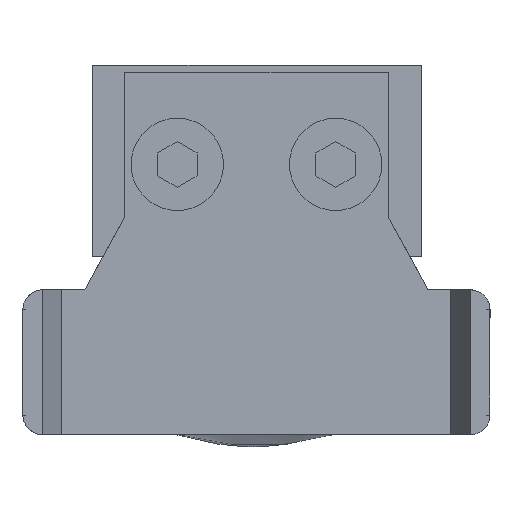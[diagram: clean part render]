
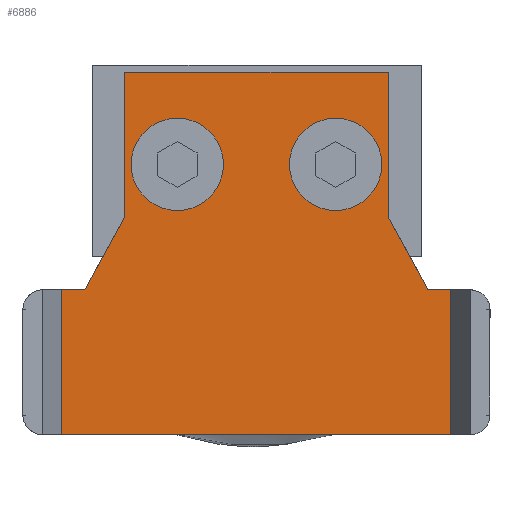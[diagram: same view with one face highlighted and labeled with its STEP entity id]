
A CAD part, left-side view. The second image highlights one B-rep face of the part: STEP entity #6886.
In plain terms, the highlighted planar face has unit normal (-1, 0, 0).
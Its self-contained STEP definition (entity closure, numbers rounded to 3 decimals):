
#16 = EDGE_CURVE ( 'NONE', #4814, #874, #1229, .T. ) ;
#40 = CARTESIAN_POINT ( 'NONE',  ( 4., 9.5, -6. ) ) ;
#99 = DIRECTION ( 'NONE',  ( 0., -1., 0. ) ) ;
#201 = CARTESIAN_POINT ( 'NONE',  ( 4., 9.5, -2.5 ) ) ;
#350 = CARTESIAN_POINT ( 'NONE',  ( 4., 0., -13. ) ) ;
#456 = CARTESIAN_POINT ( 'NONE',  ( 4., 9.5, -6. ) ) ;
#485 = ORIENTED_EDGE ( 'NONE', *, *, #4603, .T. ) ;
#645 = LINE ( 'NONE', #2362, #1545 ) ;
#764 = ORIENTED_EDGE ( 'NONE', *, *, #4418, .T. ) ;
#846 = VERTEX_POINT ( 'NONE', #3407 ) ;
#874 = VERTEX_POINT ( 'NONE', #1662 ) ;
#956 = EDGE_CURVE ( 'NONE', #4881, #1097, #645, .T. ) ;
#986 = AXIS2_PLACEMENT_3D ( 'NONE', #40, #4858, #3803 ) ;
#1043 = CARTESIAN_POINT ( 'NONE',  ( 4., 5.5, 10. ) ) ;
#1053 = CIRCLE ( 'NONE', #3345, 3.5 ) ;
#1091 = ORIENTED_EDGE ( 'NONE', *, *, #6245, .F. ) ;
#1097 = VERTEX_POINT ( 'NONE', #5168 ) ;
#1110 = LINE ( 'NONE', #5802, #5555 ) ;
#1214 = CIRCLE ( 'NONE', #2235, 3.5 ) ;
#1229 = LINE ( 'NONE', #4447, #6757 ) ;
#1252 = EDGE_CURVE ( 'NONE', #6332, #1097, #3421, .T. ) ;
#1282 = FACE_BOUND ( 'NONE', #3765, .T. ) ;
#1299 = EDGE_CURVE ( 'NONE', #3367, #846, #2476, .T. ) ;
#1301 = EDGE_CURVE ( 'NONE', #4186, #5073, #1214, .T. ) ;
#1361 = AXIS2_PLACEMENT_3D ( 'NONE', #2706, #3234, #1565 ) ;
#1370 = CARTESIAN_POINT ( 'NONE',  ( 4., 9.5, 2.5 ) ) ;
#1375 = ORIENTED_EDGE ( 'NONE', *, *, #5339, .T. ) ;
#1429 = EDGE_CURVE ( 'NONE', #6797, #2534, #1053, .T. ) ;
#1439 = EDGE_CURVE ( 'NONE', #4881, #3367, #1634, .T. ) ;
#1522 = CIRCLE ( 'NONE', #986, 3.5 ) ;
#1545 = VECTOR ( 'NONE', #5602, 1000. ) ;
#1565 = DIRECTION ( 'NONE',  ( 0., 0., -1. ) ) ;
#1634 = LINE ( 'NONE', #6427, #6743 ) ;
#1662 = CARTESIAN_POINT ( 'NONE',  ( 4., 16.5, 10. ) ) ;
#1702 = FACE_OUTER_BOUND ( 'NONE', #2656, .T. ) ;
#1845 = CARTESIAN_POINT ( 'NONE',  ( 4., 0., 13. ) ) ;
#1907 = ORIENTED_EDGE ( 'NONE', *, *, #1439, .F. ) ;
#1908 = LINE ( 'NONE', #6231, #6030 ) ;
#1956 = VECTOR ( 'NONE', #4728, 1000. ) ;
#1964 = AXIS2_PLACEMENT_3D ( 'NONE', #2562, #6309, #5882 ) ;
#2075 = ORIENTED_EDGE ( 'NONE', *, *, #1252, .F. ) ;
#2122 = PLANE ( 'NONE',  #1361 ) ;
#2235 = AXIS2_PLACEMENT_3D ( 'NONE', #456, #5835, #3196 ) ;
#2362 = CARTESIAN_POINT ( 'NONE',  ( 4., -11., 20. ) ) ;
#2449 = VERTEX_POINT ( 'NONE', #1845 ) ;
#2454 = FACE_BOUND ( 'NONE', #6699, .T. ) ;
#2476 = LINE ( 'NONE', #5241, #1956 ) ;
#2534 = VERTEX_POINT ( 'NONE', #6139 ) ;
#2546 = DIRECTION ( 'NONE',  ( 0., -1., 0. ) ) ;
#2562 = CARTESIAN_POINT ( 'NONE',  ( 4., 9.5, 6. ) ) ;
#2628 = CARTESIAN_POINT ( 'NONE',  ( 4., 5.5, -10. ) ) ;
#2656 = EDGE_LOOP ( 'NONE', ( #3472, #2075, #6262, #485, #4129, #5054, #1375, #764, #5603, #1907 ) ) ;
#2706 = CARTESIAN_POINT ( 'NONE',  ( 4., 0., 0. ) ) ;
#2734 = DIRECTION ( 'NONE',  ( 0., 1., 0. ) ) ;
#2907 = VERTEX_POINT ( 'NONE', #3895 ) ;
#3055 = VECTOR ( 'NONE', #4034, 1000. ) ;
#3196 = DIRECTION ( 'NONE',  ( 0., 0., -1. ) ) ;
#3202 = VERTEX_POINT ( 'NONE', #2628 ) ;
#3234 = DIRECTION ( 'NONE',  ( 1., 0., 0. ) ) ;
#3345 = AXIS2_PLACEMENT_3D ( 'NONE', #3749, #6407, #6459 ) ;
#3367 = VERTEX_POINT ( 'NONE', #5095 ) ;
#3407 = CARTESIAN_POINT ( 'NONE',  ( 4., 0., -13. ) ) ;
#3421 = LINE ( 'NONE', #4224, #4246 ) ;
#3472 = ORIENTED_EDGE ( 'NONE', *, *, #956, .T. ) ;
#3475 = CARTESIAN_POINT ( 'NONE',  ( 4., 0., 0. ) ) ;
#3609 = CIRCLE ( 'NONE', #1964, 3.5 ) ;
#3640 = LINE ( 'NONE', #350, #6468 ) ;
#3749 = CARTESIAN_POINT ( 'NONE',  ( 4., 9.5, 6. ) ) ;
#3765 = EDGE_LOOP ( 'NONE', ( #4063, #6270 ) ) ;
#3803 = DIRECTION ( 'NONE',  ( 0., 0., -1. ) ) ;
#3832 = CARTESIAN_POINT ( 'NONE',  ( 4., 5.5, -10. ) ) ;
#3895 = CARTESIAN_POINT ( 'NONE',  ( 4., 16.5, -10. ) ) ;
#4034 = DIRECTION ( 'NONE',  ( 0., 0., 1. ) ) ;
#4063 = ORIENTED_EDGE ( 'NONE', *, *, #1301, .F. ) ;
#4090 = EDGE_CURVE ( 'NONE', #5073, #4186, #1522, .T. ) ;
#4129 = ORIENTED_EDGE ( 'NONE', *, *, #16, .T. ) ;
#4186 = VERTEX_POINT ( 'NONE', #6011 ) ;
#4224 = CARTESIAN_POINT ( 'NONE',  ( 4., 0., 14.744 ) ) ;
#4246 = VECTOR ( 'NONE', #2546, 1000. ) ;
#4418 = EDGE_CURVE ( 'NONE', #3202, #846, #3640, .T. ) ;
#4447 = CARTESIAN_POINT ( 'NONE',  ( 4., 16.5, 10. ) ) ;
#4457 = EDGE_CURVE ( 'NONE', #2449, #6332, #5901, .T. ) ;
#4584 = DIRECTION ( 'NONE',  ( 0., -0.878, -0.479 ) ) ;
#4603 = EDGE_CURVE ( 'NONE', #2449, #4814, #1110, .T. ) ;
#4728 = DIRECTION ( 'NONE',  ( 0., 0., 1. ) ) ;
#4814 = VERTEX_POINT ( 'NONE', #1043 ) ;
#4858 = DIRECTION ( 'NONE',  ( -1., 0., 0. ) ) ;
#4881 = VERTEX_POINT ( 'NONE', #5426 ) ;
#5054 = ORIENTED_EDGE ( 'NONE', *, *, #6191, .T. ) ;
#5073 = VERTEX_POINT ( 'NONE', #201 ) ;
#5095 = CARTESIAN_POINT ( 'NONE',  ( 4., 0., -14.744 ) ) ;
#5168 = CARTESIAN_POINT ( 'NONE',  ( 4., -11., 14.744 ) ) ;
#5175 = DIRECTION ( 'NONE',  ( 0., 0.878, -0.479 ) ) ;
#5241 = CARTESIAN_POINT ( 'NONE',  ( 4., 0., 0. ) ) ;
#5339 = EDGE_CURVE ( 'NONE', #2907, #3202, #6702, .T. ) ;
#5426 = CARTESIAN_POINT ( 'NONE',  ( 4., -11., -14.744 ) ) ;
#5555 = VECTOR ( 'NONE', #5175, 1000. ) ;
#5602 = DIRECTION ( 'NONE',  ( 0., 0., 1. ) ) ;
#5603 = ORIENTED_EDGE ( 'NONE', *, *, #1299, .F. ) ;
#5726 = DIRECTION ( 'NONE',  ( 0., 0., -1. ) ) ;
#5802 = CARTESIAN_POINT ( 'NONE',  ( 4., 5.5, 10. ) ) ;
#5835 = DIRECTION ( 'NONE',  ( -1., 0., 0. ) ) ;
#5882 = DIRECTION ( 'NONE',  ( 0., 0., -1. ) ) ;
#5901 = LINE ( 'NONE', #3475, #3055 ) ;
#6011 = CARTESIAN_POINT ( 'NONE',  ( 4., 9.5, -9.5 ) ) ;
#6030 = VECTOR ( 'NONE', #5726, 1000. ) ;
#6051 = DIRECTION ( 'NONE',  ( 0., 1., 0. ) ) ;
#6139 = CARTESIAN_POINT ( 'NONE',  ( 4., 9.5, 9.5 ) ) ;
#6191 = EDGE_CURVE ( 'NONE', #874, #2907, #1908, .T. ) ;
#6231 = CARTESIAN_POINT ( 'NONE',  ( 4., 16.5, -10. ) ) ;
#6245 = EDGE_CURVE ( 'NONE', #2534, #6797, #3609, .T. ) ;
#6262 = ORIENTED_EDGE ( 'NONE', *, *, #4457, .F. ) ;
#6270 = ORIENTED_EDGE ( 'NONE', *, *, #4090, .F. ) ;
#6309 = DIRECTION ( 'NONE',  ( -1., 0., 0. ) ) ;
#6332 = VERTEX_POINT ( 'NONE', #6480 ) ;
#6407 = DIRECTION ( 'NONE',  ( -1., 0., 0. ) ) ;
#6427 = CARTESIAN_POINT ( 'NONE',  ( 4., 0., -14.744 ) ) ;
#6459 = DIRECTION ( 'NONE',  ( 0., 0., -1. ) ) ;
#6468 = VECTOR ( 'NONE', #4584, 1000. ) ;
#6480 = CARTESIAN_POINT ( 'NONE',  ( 4., 0., 14.744 ) ) ;
#6561 = ORIENTED_EDGE ( 'NONE', *, *, #1429, .F. ) ;
#6622 = VECTOR ( 'NONE', #99, 1000. ) ;
#6699 = EDGE_LOOP ( 'NONE', ( #6561, #1091 ) ) ;
#6702 = LINE ( 'NONE', #3832, #6622 ) ;
#6743 = VECTOR ( 'NONE', #2734, 1000. ) ;
#6757 = VECTOR ( 'NONE', #6051, 1000. ) ;
#6797 = VERTEX_POINT ( 'NONE', #1370 ) ;
#6886 = ADVANCED_FACE ( 'NONE', ( #1702, #1282, #2454 ), #2122, .F. ) ;
